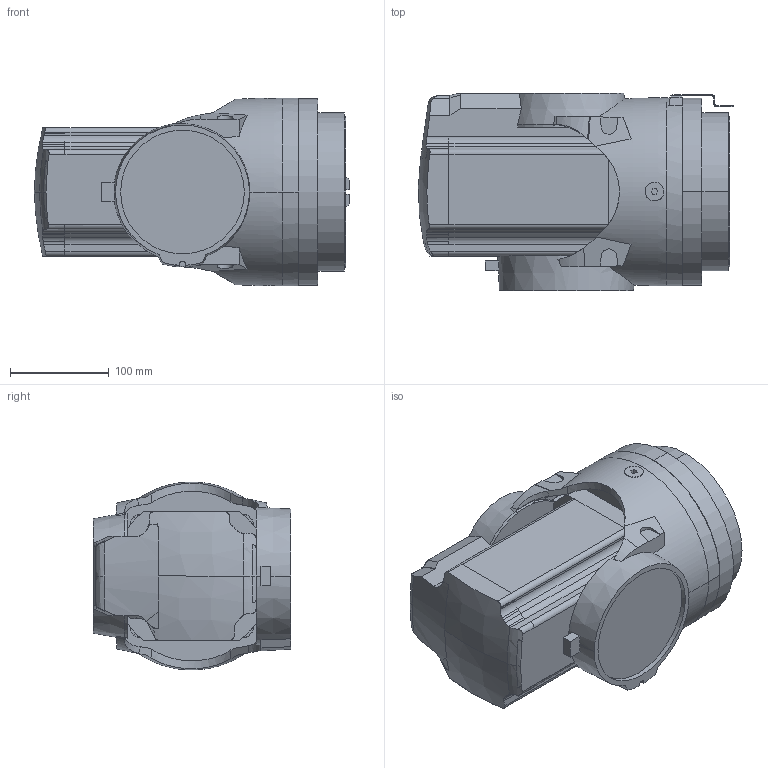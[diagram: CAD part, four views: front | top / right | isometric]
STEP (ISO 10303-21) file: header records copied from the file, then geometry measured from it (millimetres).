
FILE_DESCRIPTION (( 'STEP AP203' ), '1' );
FILE_NAME ('IRB6700_200_280_MH_link5_CAD_03.STEP', '2013-10-23T12:32:15', ( 'ABB' ), ( 'ABB' ), 'SwSTEP 2.0', 'SolidWorks 2012', '' );
FILE_SCHEMA (( 'CONFIG_CONTROL_DESIGN' ));
Length unit declared in the file: millimetre
Products named in the file (1): IRB6700_200_280_MH_link5_CAD_03
Bounding box: 318.75 x 199.5 x 190 mm (x, y, z)
Volume: 6904920.4 mm3; surface area: 285140.9 mm2
Topology: 1 solids, 1 shells, 384 faces, 1054 edges, 679 vertices
Faces by surface type: plane 222, cylinder 125, cone 18, bspline 13, torus 6
Entity records: 13417 total; most frequent: CARTESIAN_POINT 4043, ORIENTED_EDGE 2100, DIRECTION 1766, EDGE_CURVE 1050, VERTEX_POINT 677, AXIS2_PLACEMENT_3D 600, VECTOR 566, LINE 566
